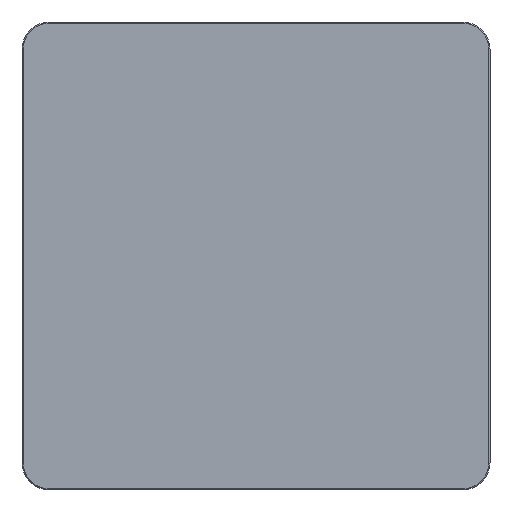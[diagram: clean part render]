
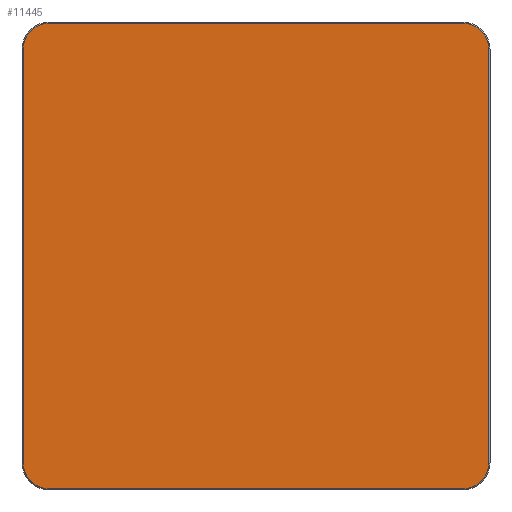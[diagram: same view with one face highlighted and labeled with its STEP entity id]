
A CAD part, top view. The second image highlights one B-rep face of the part: STEP entity #11445.
In plain terms, the highlighted planar face has unit normal (0, 0, 1).
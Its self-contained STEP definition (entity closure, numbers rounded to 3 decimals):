
#11370=CARTESIAN_POINT('',(0.,0.,20.));
#11371=DIRECTION('',(1.,0.,0.));
#11372=DIRECTION('',(0.,0.,1.));
#11373=AXIS2_PLACEMENT_3D('',#11370,#11372,#11371);
#11374=PLANE('',#11373);
#11375=CARTESIAN_POINT('',(-265.,-298.5,20.));
#11376=VERTEX_POINT('',#11375);
#11377=CARTESIAN_POINT('',(265.,-298.5,20.));
#11378=VERTEX_POINT('',#11377);
#11379=CARTESIAN_POINT('',(-265.,-298.5,20.));
#11380=DIRECTION('',(1.,0.,0.));
#11381=VECTOR('',#11380,530.);
#11382=LINE('',#11379,#11381);
#11383=EDGE_CURVE('',#11376,#11378,#11382,.T.);
#11384=ORIENTED_EDGE('E105',*,*,#11383,.T.);
#11385=CARTESIAN_POINT('',(298.5,-265.,20.));
#11386=VERTEX_POINT('',#11385);
#11387=CARTESIAN_POINT('',(265.,-265.,20.));
#11388=DIRECTION('',(0.,-1.,0.));
#11389=DIRECTION('',(0.,-0.,1.));
#11390=AXIS2_PLACEMENT_3D('',#11387,#11389,#11388);
#11391=CIRCLE('',#11390,33.5);
#11392=EDGE_CURVE('',#11378,#11386,#11391,.T.);
#11393=ORIENTED_EDGE('E107',*,*,#11392,.T.);
#11394=CARTESIAN_POINT('',(298.5,265.,20.));
#11395=VERTEX_POINT('',#11394);
#11396=CARTESIAN_POINT('',(298.5,-265.,20.));
#11397=DIRECTION('',(0.,1.,0.));
#11398=VECTOR('',#11397,530.);
#11399=LINE('',#11396,#11398);
#11400=EDGE_CURVE('',#11386,#11395,#11399,.T.);
#11401=ORIENTED_EDGE('E109',*,*,#11400,.T.);
#11402=CARTESIAN_POINT('',(265.,298.5,20.));
#11403=VERTEX_POINT('',#11402);
#11404=CARTESIAN_POINT('',(265.,265.,20.));
#11405=DIRECTION('',(1.,0.,0.));
#11406=DIRECTION('',(0.,0.,1.));
#11407=AXIS2_PLACEMENT_3D('',#11404,#11406,#11405);
#11408=CIRCLE('',#11407,33.5);
#11409=EDGE_CURVE('',#11395,#11403,#11408,.T.);
#11410=ORIENTED_EDGE('E111',*,*,#11409,.T.);
#11411=CARTESIAN_POINT('',(-265.,298.5,20.));
#11412=VERTEX_POINT('',#11411);
#11413=CARTESIAN_POINT('',(265.,298.5,20.));
#11414=DIRECTION('',(-1.,0.,0.));
#11415=VECTOR('',#11414,530.);
#11416=LINE('',#11413,#11415);
#11417=EDGE_CURVE('',#11403,#11412,#11416,.T.);
#11418=ORIENTED_EDGE('E113',*,*,#11417,.T.);
#11419=CARTESIAN_POINT('',(-298.5,265.,20.));
#11420=VERTEX_POINT('',#11419);
#11421=CARTESIAN_POINT('',(-265.,265.,20.));
#11422=DIRECTION('',(0.,1.,0.));
#11423=DIRECTION('',(0.,0.,1.));
#11424=AXIS2_PLACEMENT_3D('',#11421,#11423,#11422);
#11425=CIRCLE('',#11424,33.5);
#11426=EDGE_CURVE('',#11412,#11420,#11425,.T.);
#11427=ORIENTED_EDGE('E115',*,*,#11426,.T.);
#11428=CARTESIAN_POINT('',(-298.5,-265.,20.));
#11429=VERTEX_POINT('',#11428);
#11430=CARTESIAN_POINT('',(-298.5,265.,20.));
#11431=DIRECTION('',(0.,-1.,0.));
#11432=VECTOR('',#11431,530.);
#11433=LINE('',#11430,#11432);
#11434=EDGE_CURVE('',#11420,#11429,#11433,.T.);
#11435=ORIENTED_EDGE('E117',*,*,#11434,.T.);
#11436=CARTESIAN_POINT('',(-265.,-265.,20.));
#11437=DIRECTION('',(-1.,0.,0.));
#11438=DIRECTION('',(0.,0.,1.));
#11439=AXIS2_PLACEMENT_3D('',#11436,#11438,#11437);
#11440=CIRCLE('',#11439,33.5);
#11441=EDGE_CURVE('',#11429,#11376,#11440,.T.);
#11442=ORIENTED_EDGE('E119',*,*,#11441,.T.);
#11443=EDGE_LOOP('',(#11384,#11393,#11401,#11410,#11418,#11427,#11435,#11442));
#11444=FACE_OUTER_BOUND('',#11443,.T.);
#11445=ADVANCED_FACE('F2',(#11444),#11374,.T.);
